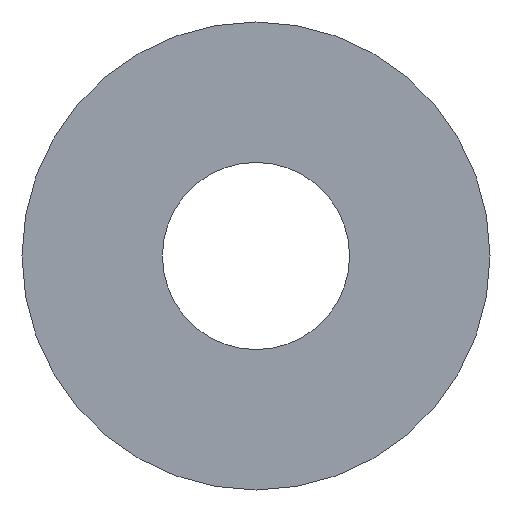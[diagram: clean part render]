
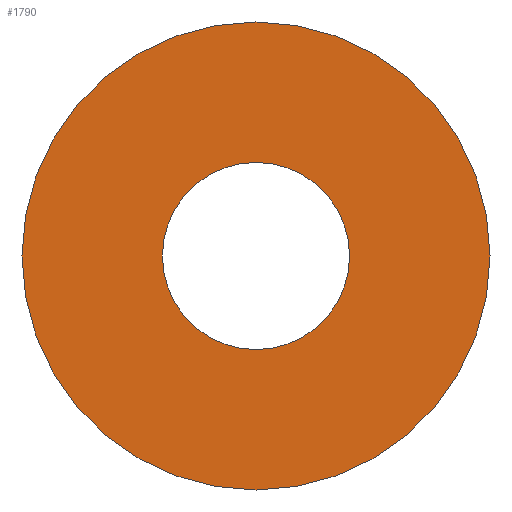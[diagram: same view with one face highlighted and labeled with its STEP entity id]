
A CAD part, front view. The second image highlights one B-rep face of the part: STEP entity #1790.
In plain terms, the highlighted planar face has unit normal (0, -1, 0).
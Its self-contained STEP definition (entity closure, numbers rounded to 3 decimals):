
#271=FACE_BOUND('',#451,.T.);
#295=PLANE('',#1995);
#370=FACE_OUTER_BOUND('',#450,.T.);
#450=EDGE_LOOP('',(#1505));
#451=EDGE_LOOP('',(#1506));
#691=CIRCLE('',#1822,4.);
#793=CIRCLE('',#1996,10.);
#849=VERTEX_POINT('',#2700);
#991=VERTEX_POINT('',#3127);
#998=EDGE_CURVE('',#849,#849,#691,.T.);
#1210=EDGE_CURVE('',#991,#991,#793,.T.);
#1505=ORIENTED_EDGE('',*,*,#1210,.F.);
#1506=ORIENTED_EDGE('',*,*,#998,.T.);
#1790=ADVANCED_FACE('',(#370,#271),#295,.T.);
#1822=AXIS2_PLACEMENT_3D('',#2702,#2080,#2081);
#1995=AXIS2_PLACEMENT_3D('',#3126,#2536,#2537);
#1996=AXIS2_PLACEMENT_3D('',#3128,#2538,#2539);
#2080=DIRECTION('center_axis',(0.,1.,0.));
#2081=DIRECTION('ref_axis',(1.,0.,0.));
#2536=DIRECTION('center_axis',(0.,-1.,0.));
#2537=DIRECTION('ref_axis',(0.,0.,-1.));
#2538=DIRECTION('center_axis',(0.,1.,0.));
#2539=DIRECTION('ref_axis',(1.,0.,0.));
#2700=CARTESIAN_POINT('',(-4.,0.,0.));
#2702=CARTESIAN_POINT('Origin',(0.,0.,0.));
#3126=CARTESIAN_POINT('Origin',(10.,0.,0.));
#3127=CARTESIAN_POINT('',(-10.,0.,0.));
#3128=CARTESIAN_POINT('Origin',(0.,0.,0.));
